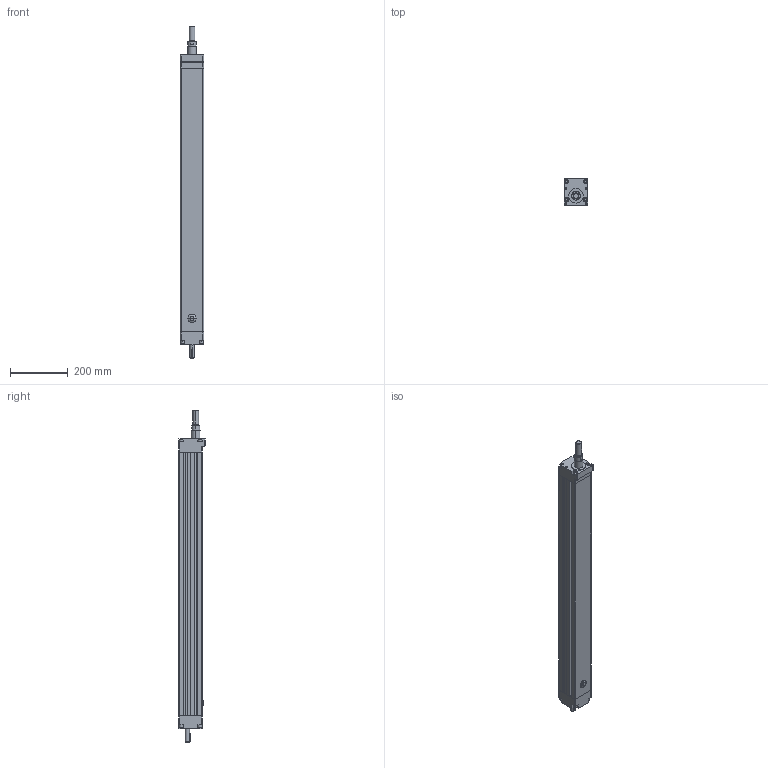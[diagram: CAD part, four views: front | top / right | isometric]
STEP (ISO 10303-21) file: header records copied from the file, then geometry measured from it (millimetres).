
FILE_DESCRIPTION (( 'STEP AP214' ), '1' );
FILE_NAME ('EHTXex80.STEP', '2021-09-29T09:57:13', ( '' ), ( '' ), 'SwSTEP 2.0', 'SolidWorks 2020', '' );
FILE_SCHEMA (( 'AUTOMOTIVE_DESIGN' ));
Length unit declared in the file: millimetre
Products named in the file (6): EHTXex80; Lagerstück EHX 80 - Druckstange - ED^Positioniersystem EHTXex80 - ED; Lagerstück EHX 80 -Antriebsseite - ED^Positioniersystem EHTXex80 - ED; Verschlußschraube M25 - bearbeitet - Masterteil^Positioniersystem EHTXex80 - ED; Druckstange EHX 80 - Ø30 - M27 x1,5 - voll - ED^Positioniersystem EHTXex80 - ED_ausgefahren (Druckstange l=VST-81mm); Führungsprofil EHX 80 - ED^Positioniersystem EHTXex80 - ED
Assembly tree (5 placements, depth 2):
  EHTXex80
    Führungsprofil EHX 80 - ED^Positioniersystem EHTXex80 - ED
    Druckstange EHX 80 - Ø30 - M27 x1,5 - voll - ED^Positioniersystem EHTXex80 - ED_ausgefahren (Druckstange l=VST-81mm)
    Verschlußschraube M25 - bearbeitet - Masterteil^Positioniersystem EHTXex80 - ED
    Lagerstück EHX 80 -Antriebsseite - ED^Positioniersystem EHTXex80 - ED
    Lagerstück EHX 80 - Druckstange - ED^Positioniersystem EHTXex80 - ED
Bounding box: 80 x 90 x 1145 mm (x, y, z)
Volume: 4089888.7 mm3; surface area: 769221.6 mm2
Topology: 14 solids, 14 shells, 436 faces, 1068 edges, 684 vertices
Faces by surface type: plane 241, cylinder 143, cone 28, torus 22, sphere 2
Entity records: 14403 total; most frequent: DIRECTION 2285, CARTESIAN_POINT 2248, ORIENTED_EDGE 2100, EDGE_CURVE 1050, AXIS2_PLACEMENT_3D 797, LINE 691, VECTOR 691, VERTEX_POINT 684
